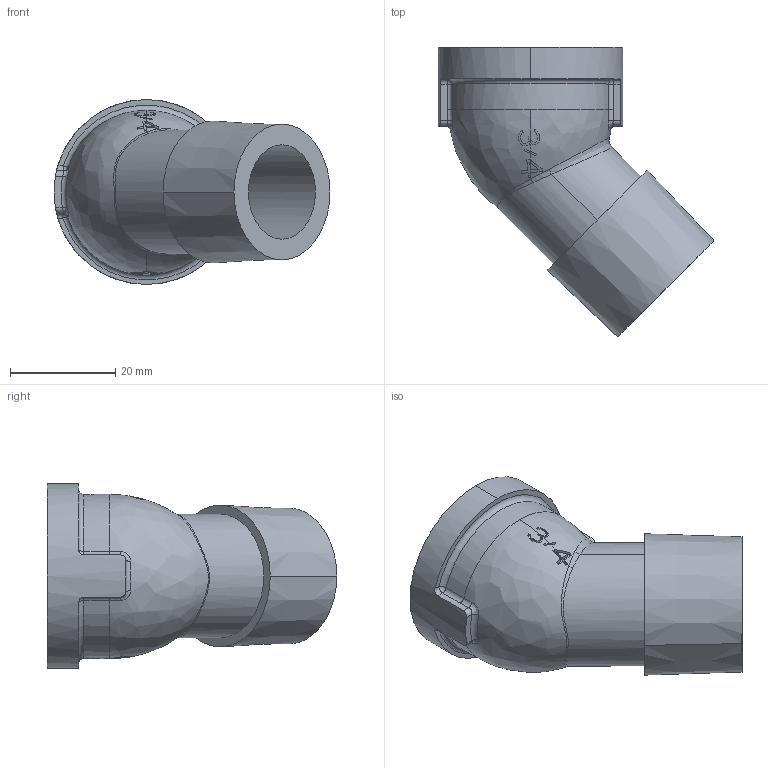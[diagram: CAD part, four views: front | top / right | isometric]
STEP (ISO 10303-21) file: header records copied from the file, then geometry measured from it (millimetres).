
FILE_DESCRIPTION((''),'2;1');
FILE_NAME('M156_3_4_ELBOW','2020-02-14T',('LRoberts'),(''),'CREO PARAMETRIC BY PTC INC, 2016130','CREO PARAMETRIC BY PTC INC, 2016130','');
FILE_SCHEMA(('CONFIG_CONTROL_DESIGN'));
Length unit declared in the file: millimetre
Products named in the file (1): M156_3_4_ELBOW
Bounding box: 52.53 x 55.14 x 35.2 mm (x, y, z)
Volume: 16843.3 mm3; surface area: 9788.5 mm2
Topology: 1 solids, 1 shells, 206 faces, 562 edges, 361 vertices
Faces by surface type: plane 91, bspline 79, cylinder 24, torus 4, sphere 4, cone 4
Entity records: 9139 total; most frequent: CARTESIAN_POINT 4692, ORIENTED_EDGE 1124, DIRECTION 600, EDGE_CURVE 562, VERTEX_POINT 361, B_SPLINE_CURVE_WITH_KNOTS 304, AXIS2_PLACEMENT_3D 215, EDGE_LOOP 211
